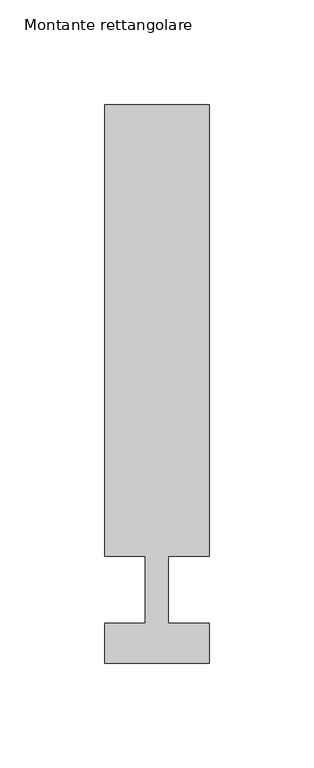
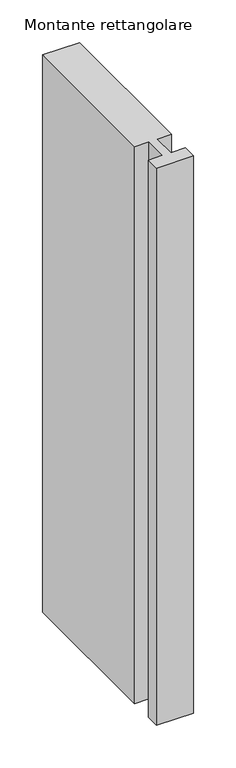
"""IFC4 building model written with IfcOpenShell, lengths in millimetres: member geometry, Montante rettangolare : Aluk_SL50_Montante K735_vetro 32."""

from ifc_helpers import new_model, si_unit, frame, origin, place, context, project, spatial, polyline, outline, extrude, source, transform, mapped, element, save


def montante_rettangolare_eeaf3a97(model_context):
    return source(origin(), model_context, "Body", "SweptSolid", [
        extrude(outline(polyline([(25.0, 232.0), (25.0, 16.0), (5.5, 16.0), (5.5, -16.0048274), (24.9698705, -16.0048274), (24.9698705, -35.0019341), (-25.0442424, -35.0019341), (-25.0442424, -16.0048274), (-5.5, -16.0048274), (-5.5, 16.0), (-25.0, 16.0), (-25.0, 232.0), (25.0, 232.0)])), frame((0.0, 0.0, -796.7), z_axis=(0.0, 0.0, 1.0), x_axis=(1.0, 0.0, 0.0)), (0.0, 0.0, 1.0), 796.7),
    ])


if __name__ == "__main__":
    model = new_model("IFC4")
    model_context = context("Model", 3, world=origin())
    ifc_project = project(units=[si_unit("LENGTHUNIT", "METRE", prefix="MILLI")], contexts=[model_context])
    site = spatial("IfcSite", under=ifc_project)
    building = spatial("IfcBuilding", under=site)
    placement = place(None, origin())
    montante_rettangolare_shape = montante_rettangolare_eeaf3a97(model_context)
    element("IfcMember", 1, ObjectType="Montante rettangolare : Aluk_SL50_Montante K735_vetro 32", at=placement, inside=building, context=model_context, shape_type="MappedRepresentation", body=[
        mapped(montante_rettangolare_shape, transform((0.0, 0.0, 0.0), x_axis=(1.0, 0.0, 0.0), y_axis=(0.0, 1.0, 0.0), z_axis=(0.0, 0.0, 1.0))),
    ])
    save(model, "model.ifc")
